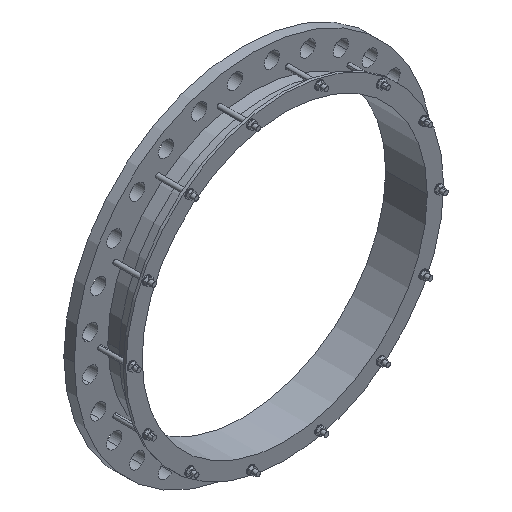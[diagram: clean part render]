
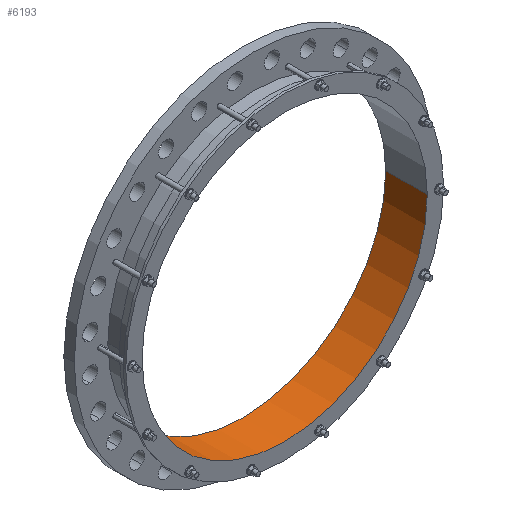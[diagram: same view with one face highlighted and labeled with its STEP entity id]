
A CAD part, isometric view. The second image highlights one B-rep face of the part: STEP entity #6193.
In plain terms, the highlighted cylindrical face has radius 525 mm (diameter 1050 mm), a partial arc.
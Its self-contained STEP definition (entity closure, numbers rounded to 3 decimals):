
#7=CARTESIAN_POINT('',(0.,38.,0.));
#8=DIRECTION('',(0.,1.,0.));
#9=DIRECTION('',(1.,0.,0.));
#10=AXIS2_PLACEMENT_3D('',#7,#8,#9);
#1686=CARTESIAN_POINT('',(0.,-115.,0.));
#1687=DIRECTION('',(0.,1.,0.));
#1688=DIRECTION('',(1.,0.,0.));
#1689=AXIS2_PLACEMENT_3D('',#1686,#1687,#1688);
#1691=DIRECTION('',(0.,1.,0.));
#1692=VECTOR('',#1691,153.);
#1693=CARTESIAN_POINT('',(525.,-115.,0.));
#1694=LINE('',#1693,#1692);
#1695=DIRECTION('',(0.,1.,0.));
#1696=VECTOR('',#1695,153.);
#1697=CARTESIAN_POINT('',(-525.,-115.,0.));
#1698=LINE('',#1697,#1696);
#4250=CARTESIAN_POINT('',(525.,-115.,0.));
#4251=CARTESIAN_POINT('',(525.,38.,0.));
#4252=VERTEX_POINT('',#4250);
#4253=VERTEX_POINT('',#4251);
#4262=CARTESIAN_POINT('',(-525.,-115.,0.));
#4263=CARTESIAN_POINT('',(-525.,38.,0.));
#4264=VERTEX_POINT('',#4262);
#4265=VERTEX_POINT('',#4263);
#6180=CARTESIAN_POINT('',(0.,-122.65,0.));
#6181=DIRECTION('',(0.,1.,0.));
#6182=DIRECTION('',(-1.,0.,0.));
#6183=AXIS2_PLACEMENT_3D('',#6180,#6181,#6182);
#6184=CYLINDRICAL_SURFACE('',#6183,525.);
#6186=ORIENTED_EDGE('',*,*,#6185,.F.);
#6187=ORIENTED_EDGE('',*,*,#6091,.T.);
#6189=ORIENTED_EDGE('',*,*,#6188,.T.);
#6190=ORIENTED_EDGE('',*,*,#5223,.F.);
#6191=EDGE_LOOP('',(#6186,#6187,#6189,#6190));
#6192=FACE_OUTER_BOUND('',#6191,.F.);
#6193=ADVANCED_FACE('',(#6192),#6184,.F.);
#11=CIRCLE('',#10,525.);
#1690=CIRCLE('',#1689,525.);
#5223=EDGE_CURVE('',#4253,#4265,#11,.T.);
#6091=EDGE_CURVE('',#4252,#4264,#1690,.T.);
#6185=EDGE_CURVE('',#4252,#4253,#1694,.T.);
#6188=EDGE_CURVE('',#4264,#4265,#1698,.T.);
